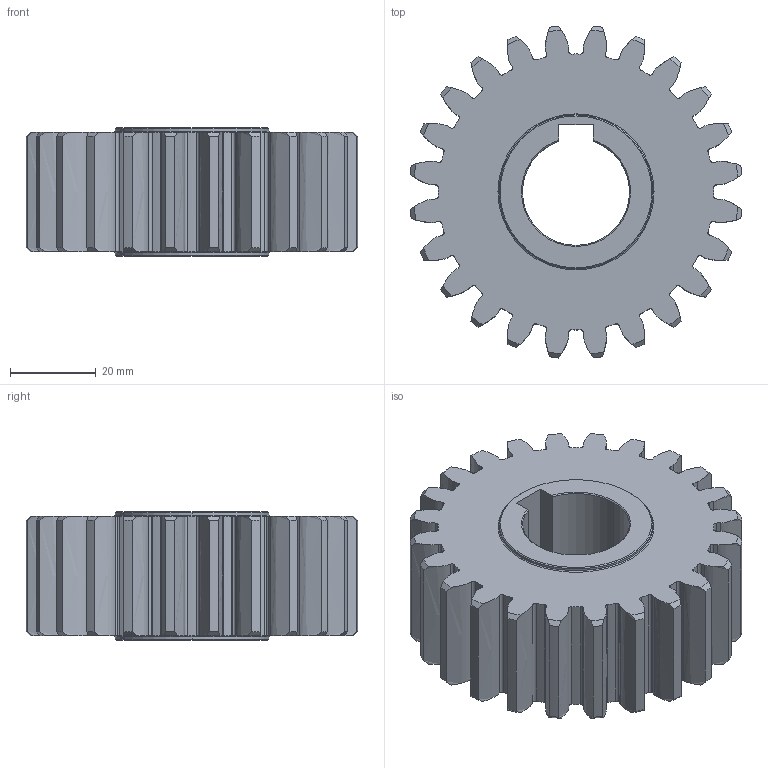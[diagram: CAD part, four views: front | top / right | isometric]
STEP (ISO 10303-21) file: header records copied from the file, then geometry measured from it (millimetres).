
FILE_DESCRIPTION (( 'STEP AP214' ), '1' );
FILE_NAME ('1SG__S030024S.STEP', '2021-08-03T07:48:33', ( '' ), ( '' ), 'SwSTEP 2.0', 'SolidWorks 2021', '' );
FILE_SCHEMA (( 'AUTOMOTIVE_DESIGN' ));
Length unit declared in the file: millimetre
Products named in the file (1): 1SG__S030024S
Bounding box: 77.58 x 77.58 x 30 mm (x, y, z)
Volume: 98387.6 mm3; surface area: 22488.9 mm2
Topology: 1 solids, 1 shells, 256 faces, 792 edges, 540 vertices
Faces by surface type: cylinder 91, bspline 72, cone 58, plane 31, torus 4
Entity records: 15886 total; most frequent: CARTESIAN_POINT 9065, ORIENTED_EDGE 1584, DIRECTION 1262, EDGE_CURVE 792, VERTEX_POINT 540, AXIS2_PLACEMENT_3D 481, LINE 300, VECTOR 300
